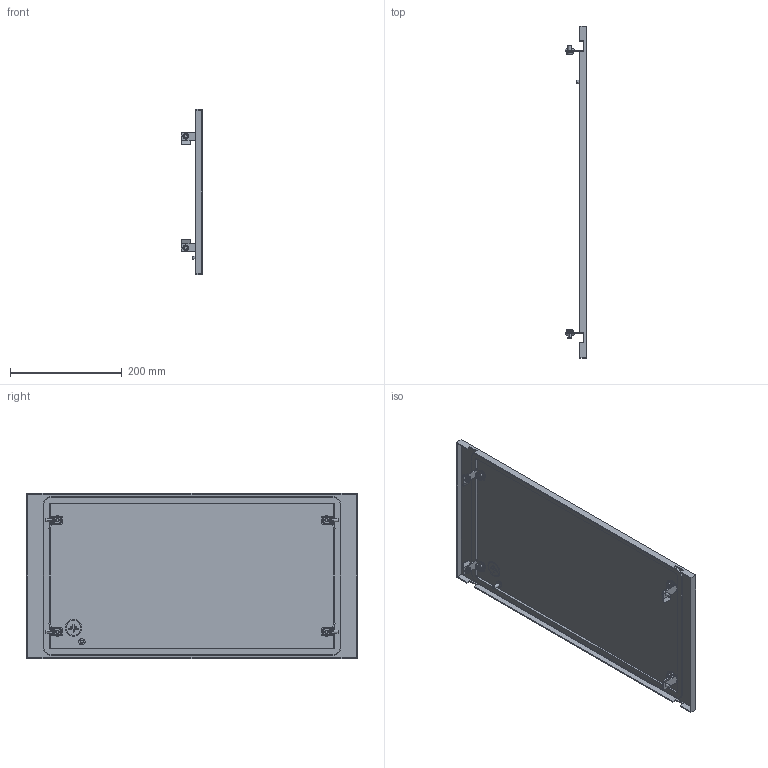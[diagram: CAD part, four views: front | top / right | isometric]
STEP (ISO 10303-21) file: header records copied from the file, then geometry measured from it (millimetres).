
FILE_DESCRIPTION (( 'STEP AP214' ), '1' );
FILE_NAME ('FO-00-PWSB-030-060 Ôàëüø-ïàíåëü âíåøíÿÿ ãëóõàÿ 300õ600 ìì.STEP', '2025-08-25T08:07:27', ( '' ), ( '' ), 'SwSTEP 2.0', 'SolidWorks 2023', '' );
FILE_SCHEMA (( 'AUTOMOTIVE_DESIGN' ));
Length unit declared in the file: millimetre
Products named in the file (1): FO-00-PWSB-030-060 Фальш-панель внешняя глухая 300х600 мм
Bounding box: 38.5 x 595 x 296 mm (x, y, z)
Volume: 456129.2 mm3; surface area: 414147.2 mm2
Topology: 1 solids, 10 shells, 846 faces, 2093 edges, 1287 vertices
Faces by surface type: plane 530, cylinder 202, cone 90, torus 24
Entity records: 25304 total; most frequent: CARTESIAN_POINT 4881, DIRECTION 4361, ORIENTED_EDGE 4182, EDGE_CURVE 2091, AXIS2_PLACEMENT_3D 1487, VECTOR 1387, LINE 1387, VERTEX_POINT 1287
